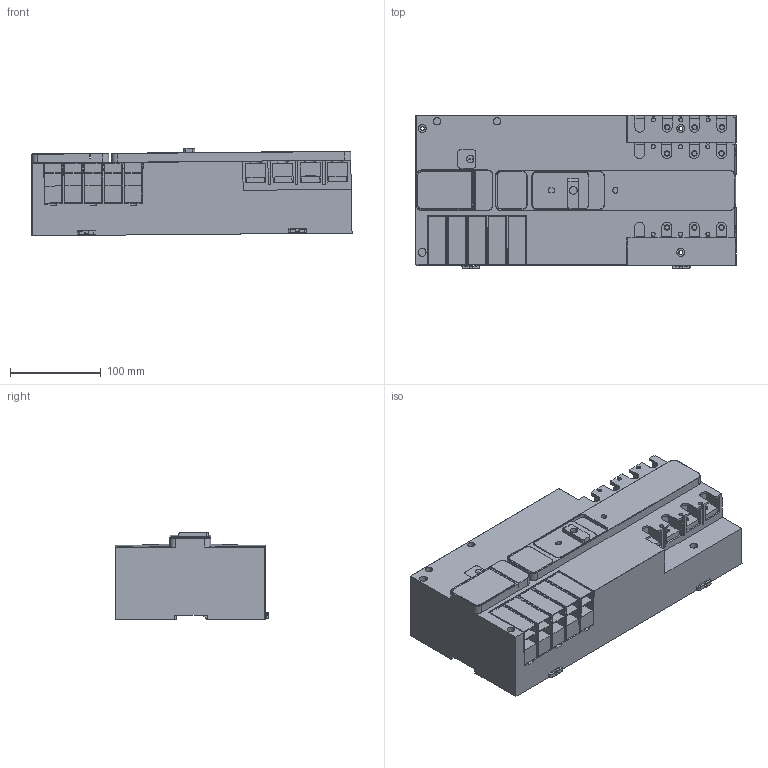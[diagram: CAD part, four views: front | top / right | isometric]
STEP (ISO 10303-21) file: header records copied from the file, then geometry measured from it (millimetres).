
FILE_DESCRIPTION((''),'2;1');
FILE_NAME('R2_IEC_3P_LCD_3D-SIMPLIFIED_ASM','2021-12-08T14:37:26',('SESA530330'),('Schneider-Electric'),'CREO PARAMETRIC BY PTC INC, 2019471','CREO PARAMETRIC BY PTC INC, 2019471','');
FILE_SCHEMA(('CONFIG_CONTROL_DESIGN'));
Length unit declared in the file: millimetre
Products named in the file (3): R2IEC3PLCD_3D-SIMPLIFIED_8; R2IEC3PLCD_3D_SIMPLIFIED_ASM_1_ASM; R2_IEC_3P_LCD_3D-SIMPLIFIED_ASM
Assembly tree (2 placements, depth 3):
  R2_IEC_3P_LCD_3D-SIMPLIFIED_ASM
    R2IEC3PLCD_3D_SIMPLIFIED_ASM_1_ASM
      R2IEC3PLCD_3D-SIMPLIFIED_8
Bounding box: 351.73 x 168.22 x 96.3 mm (x, y, z)
Volume: 4211053 mm3; surface area: 315575.8 mm2
Topology: 1 solids, 1 shells, 1335 faces, 3528 edges, 2253 vertices
Faces by surface type: plane 667, cylinder 493, torus 110, extrusion 28, sphere 19, bspline 14, cone 4
Entity records: 42356 total; most frequent: CARTESIAN_POINT 8734, DIRECTION 7030, ORIENTED_EDGE 7018, EDGE_CURVE 3509, AXIS2_PLACEMENT_3D 2369, VECTOR 2292, LINE 2264, VERTEX_POINT 2253
